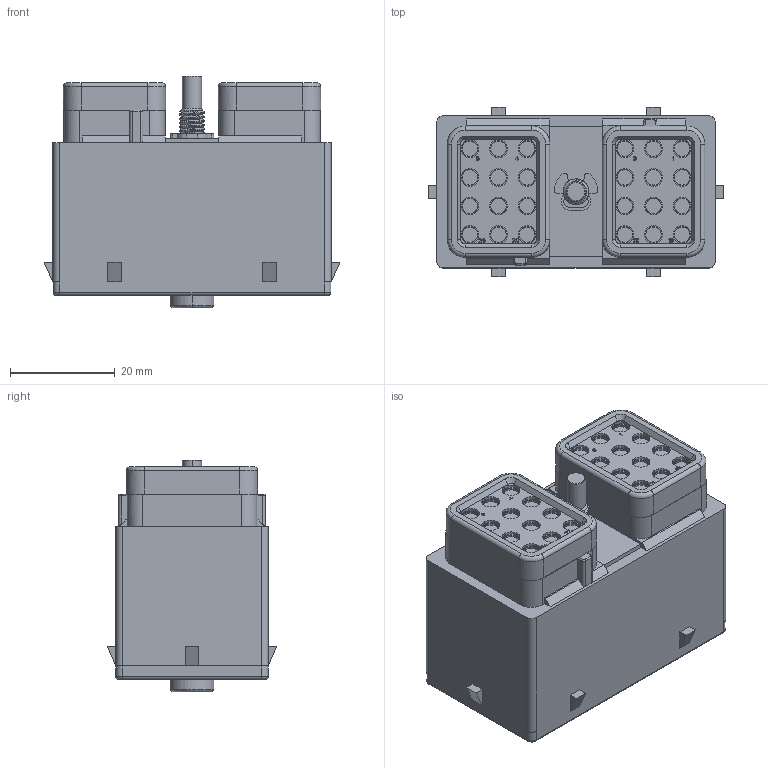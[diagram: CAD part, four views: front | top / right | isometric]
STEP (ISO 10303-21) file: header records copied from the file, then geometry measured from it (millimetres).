
FILE_DESCRIPTION((''),'2;1');
FILE_NAME('C-DRC16-24SC-P013','2013-05-28T',('workeradm'),('Tyco Electronics Ltd.'),'PRO/ENGINEER BY PARAMETRIC TECHNOLOGY CORPORATION, 2011490','PRO/ENGINEER BY PARAMETRIC TECHNOLOGY CORPORATION, 2011490','');
FILE_SCHEMA(('AUTOMOTIVE_DESIGN { 1 0 10303 214 1 1 1 1 }'));
Length unit declared in the file: millimetre
Products named in the file (1): C-DRC16-24SC-P013
Bounding box: 56.64 x 32.46 x 44.32 mm (x, y, z)
Volume: 53547.1 mm3; surface area: 11237.8 mm2
Topology: 1 solids, 1 shells, 1046 faces, 2557 edges, 1614 vertices
Faces by surface type: plane 567, cylinder 330, cone 66, bspline 57, torus 26
Entity records: 35506 total; most frequent: CARTESIAN_POINT 10212, DIRECTION 5277, ORIENTED_EDGE 5114, EDGE_CURVE 2557, AXIS2_PLACEMENT_3D 1776, VECTOR 1725, LINE 1725, VERTEX_POINT 1614
